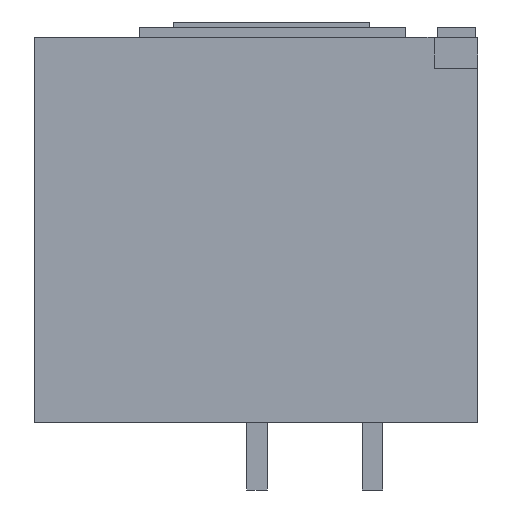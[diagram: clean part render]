
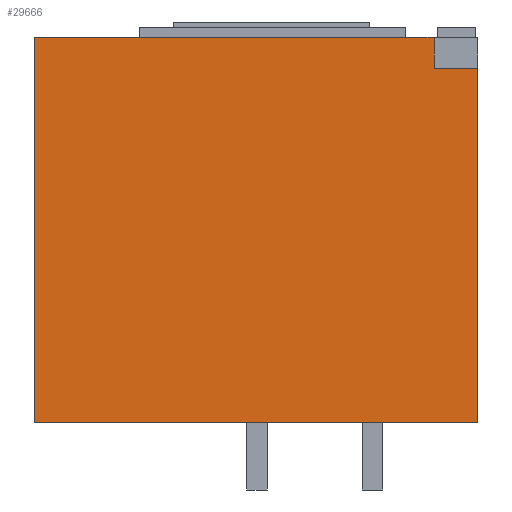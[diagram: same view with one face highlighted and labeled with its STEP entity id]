
A CAD part, left-side view. The second image highlights one B-rep face of the part: STEP entity #29666.
In plain terms, the highlighted planar face has unit normal (-1, 0, 0).
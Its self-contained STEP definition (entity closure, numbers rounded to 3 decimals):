
#112 = EDGE_CURVE ( 'NONE', #11438, #31837, #29291, .T. ) ;
#279 = ORIENTED_EDGE ( 'NONE', *, *, #12064, .F. ) ;
#1720 = LINE ( 'NONE', #11421, #7666 ) ;
#4435 = LINE ( 'NONE', #27466, #14778 ) ;
#4501 = PLANE ( 'NONE',  #28913 ) ;
#6556 = VECTOR ( 'NONE', #29919, 1000. ) ;
#7040 = CARTESIAN_POINT ( 'NONE',  ( -262.5, 430., 0. ) ) ;
#7431 = DIRECTION ( 'NONE',  ( -1., 0., 0. ) ) ;
#7437 = LINE ( 'NONE', #9728, #21681 ) ;
#7666 = VECTOR ( 'NONE', #19990, 1000. ) ;
#9728 = CARTESIAN_POINT ( 'NONE',  ( -262.5, 42.5, -373.5 ) ) ;
#10240 = EDGE_CURVE ( 'NONE', #34170, #11438, #12464, .T. ) ;
#11421 = CARTESIAN_POINT ( 'NONE',  ( -262.5, 430.001, -30. ) ) ;
#11438 = VERTEX_POINT ( 'NONE', #18727 ) ;
#12064 = EDGE_CURVE ( 'NONE', #25205, #31837, #1720, .T. ) ;
#12464 = LINE ( 'NONE', #35411, #26671 ) ;
#12695 = EDGE_CURVE ( 'NONE', #33080, #23656, #4435, .T. ) ;
#13311 = DIRECTION ( 'NONE',  ( 0., -1., 0. ) ) ;
#14778 = VECTOR ( 'NONE', #13311, 1000. ) ;
#15743 = ORIENTED_EDGE ( 'NONE', *, *, #12695, .F. ) ;
#15792 = CARTESIAN_POINT ( 'NONE',  ( -262.5, 0., -373.5 ) ) ;
#16745 = EDGE_CURVE ( 'NONE', #25205, #23656, #7437, .T. ) ;
#16898 = EDGE_CURVE ( 'NONE', #34170, #33080, #35106, .T. ) ;
#18727 = CARTESIAN_POINT ( 'NONE',  ( -262.5, 0., -373.5 ) ) ;
#19990 = DIRECTION ( 'NONE',  ( 0., -1., 0. ) ) ;
#21681 = VECTOR ( 'NONE', #32503, 1000. ) ;
#23656 = VERTEX_POINT ( 'NONE', #32550 ) ;
#24410 = ORIENTED_EDGE ( 'NONE', *, *, #112, .T. ) ;
#24586 = CARTESIAN_POINT ( 'NONE',  ( -262.5, 0., -30. ) ) ;
#25035 = ORIENTED_EDGE ( 'NONE', *, *, #10240, .T. ) ;
#25205 = VERTEX_POINT ( 'NONE', #36713 ) ;
#26604 = ORIENTED_EDGE ( 'NONE', *, *, #16898, .F. ) ;
#26671 = VECTOR ( 'NONE', #32634, 1000. ) ;
#27333 = DIRECTION ( 'NONE',  ( 0., -1., 0. ) ) ;
#27466 = CARTESIAN_POINT ( 'NONE',  ( -262.5, 0., 0. ) ) ;
#28323 = FACE_OUTER_BOUND ( 'NONE', #30624, .T. ) ;
#28429 = ORIENTED_EDGE ( 'NONE', *, *, #16745, .T. ) ;
#28913 = AXIS2_PLACEMENT_3D ( 'NONE', #15792, #7431, #27333 ) ;
#29154 = CARTESIAN_POINT ( 'NONE',  ( -262.5, 0., -373.5 ) ) ;
#29291 = LINE ( 'NONE', #29154, #6556 ) ;
#29666 = ADVANCED_FACE ( 'NONE', ( #28323 ), #4501, .T. ) ;
#29919 = DIRECTION ( 'NONE',  ( 0., 0., 1. ) ) ;
#30349 = DIRECTION ( 'NONE',  ( 0., 0., 1. ) ) ;
#30624 = EDGE_LOOP ( 'NONE', ( #15743, #26604, #25035, #24410, #279, #28429 ) ) ;
#31837 = VERTEX_POINT ( 'NONE', #24586 ) ;
#32503 = DIRECTION ( 'NONE',  ( 0., 0., 1. ) ) ;
#32550 = CARTESIAN_POINT ( 'NONE',  ( -262.5, 42.5, 0. ) ) ;
#32634 = DIRECTION ( 'NONE',  ( 0., -1., 0. ) ) ;
#33080 = VERTEX_POINT ( 'NONE', #7040 ) ;
#34170 = VERTEX_POINT ( 'NONE', #35904 ) ;
#34207 = VECTOR ( 'NONE', #30349, 1000. ) ;
#35106 = LINE ( 'NONE', #36128, #34207 ) ;
#35411 = CARTESIAN_POINT ( 'NONE',  ( -262.5, 0., -373.5 ) ) ;
#35904 = CARTESIAN_POINT ( 'NONE',  ( -262.5, 430., -373.5 ) ) ;
#36128 = CARTESIAN_POINT ( 'NONE',  ( -262.5, 430., -373.5 ) ) ;
#36713 = CARTESIAN_POINT ( 'NONE',  ( -262.5, 42.5, -30. ) ) ;
